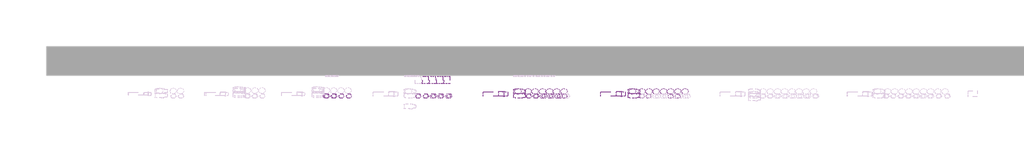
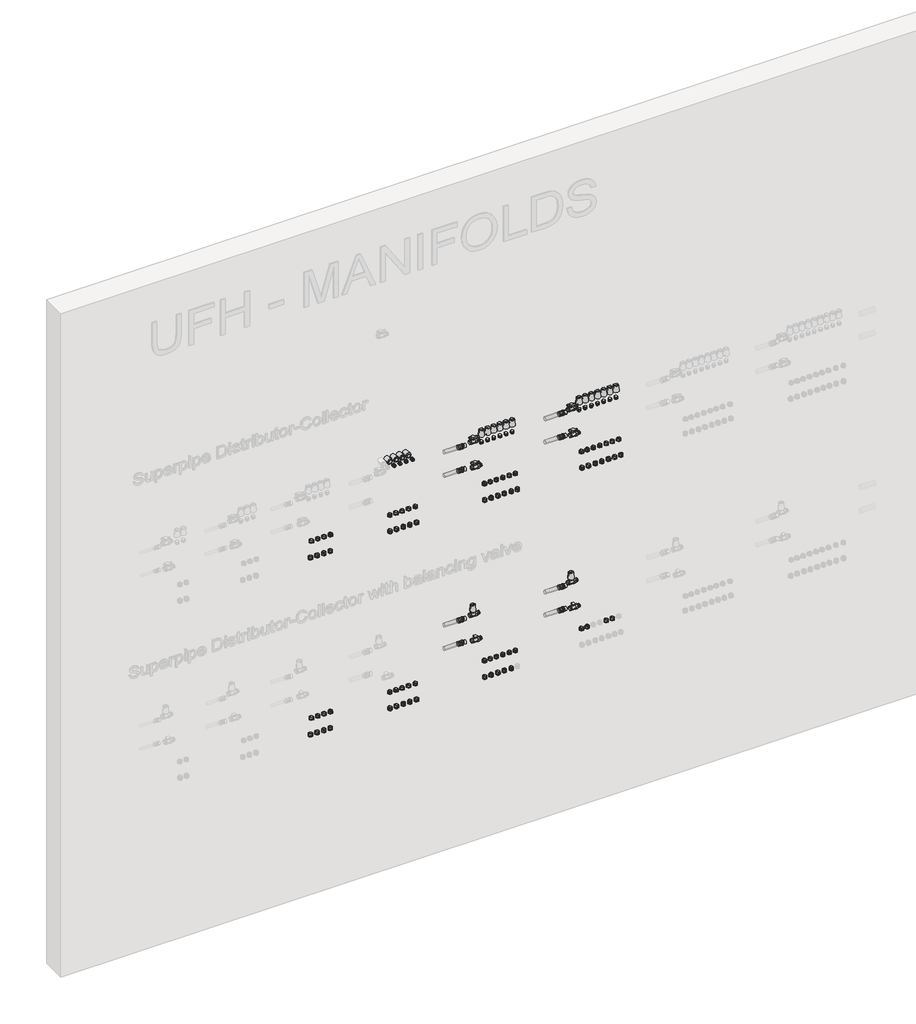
# One storey, part 2 of 26: 85 pipe fittings, 27 valves, 8 pipe segments.
"""IFC4 building model written with IfcOpenShell, lengths in millimetres."""

from ifc_helpers import new_model, si_unit, point, frame, frame_2d, origin, place, context, project, spatial, circle_curve, trimmed, segment, composite_curve, outline, extrude, transform, mapped, element, save
from components import pipe_fitting_a4cde8ab, pipe_fitting_d8af90f1, press_connection_with_male_thread_667abdb5, valve_0291d072, valve_f4025eb8, valve_fccc3399, valve_a3a22d59

model = new_model("IFC4")

# Units and contexts
model_context = context("Model", 3, world=origin())
ifc_project = project(units=[si_unit("LENGTHUNIT", "METRE", prefix="MILLI")], contexts=[model_context])

# Site, building, storey
site = spatial("IfcSite", under=ifc_project)
building = spatial("IfcBuilding", under=site)
storey = spatial("IfcBuildingStorey", under=building, Name="Superpipe UFH", Elevation=0.0)

# Pipe fittings
placement = place(None, origin())
pipe_fitting_shape = pipe_fitting_a4cde8ab(model_context)
element("IfcPipeFitting", 1, ObjectType="Compression Adapter 3/4\"FT : Superpipe Compression Adapter", at=placement, inside=storey, context=model_context, shape_type="MappedRepresentation", body=[
    mapped(pipe_fitting_shape, transform((2335.0760208, -1357.1498396, 3024.2503675), x_axis=(0.0, 0.0, -1.0), y_axis=(0.0, 1.0, 0.0), z_axis=(1.0, 0.0, 0.0))),
])
element("IfcPipeFitting", 2, ObjectType="Compression Adapter 3/4\"FT : Superpipe Compression Adapter", at=placement, inside=storey, context=model_context, shape_type="MappedRepresentation", body=[
    mapped(pipe_fitting_shape, transform((2387.690436, -1357.1498396, 3024.2503675), x_axis=(0.0, 0.0, -1.0), y_axis=(0.0, 1.0, 0.0), z_axis=(1.0, 0.0, 0.0))),
])
element("IfcPipeFitting", 3, ObjectType="Compression Adapter 3/4\"FT : Superpipe Compression Adapter", at=placement, inside=storey, context=model_context, shape_type="MappedRepresentation", body=[
    mapped(pipe_fitting_shape, transform((2442.690436, -1357.1498396, 3024.2503675), x_axis=(0.0, 0.0, -1.0), y_axis=(0.0, 1.0, 0.0), z_axis=(1.0, 0.0, 0.0))),
])
element("IfcPipeFitting", 4, ObjectType="Compression Adapter 3/4\"FT : Superpipe Compression Adapter", at=placement, inside=storey, context=model_context, shape_type="MappedRepresentation", body=[
    mapped(pipe_fitting_shape, transform((2495.190436, -1357.1498396, 3024.2503675), x_axis=(0.0, 0.0, -1.0), y_axis=(0.0, 1.0, 0.0), z_axis=(1.0, 0.0, 0.0))),
])
element("IfcPipeFitting", 5, ObjectType="Compression Adapter 3/4\"FT : Superpipe Compression Adapter", at=placement, inside=storey, context=model_context, shape_type="MappedRepresentation", body=[
    mapped(pipe_fitting_shape, transform((2980.0760208, -1357.1498396, 3024.2503675), x_axis=(0.0, 0.0, -1.0), y_axis=(0.0, 1.0, 0.0), z_axis=(1.0, 0.0, 0.0))),
])
element("IfcPipeFitting", 6, ObjectType="Compression Adapter 3/4\"FT : Superpipe Compression Adapter", at=placement, inside=storey, context=model_context, shape_type="MappedRepresentation", body=[
    mapped(pipe_fitting_shape, transform((3032.690436, -1357.1498396, 3024.2503675), x_axis=(0.0, 0.0, -1.0), y_axis=(0.0, 1.0, 0.0), z_axis=(1.0, 0.0, 0.0))),
])
element("IfcPipeFitting", 7, ObjectType="Compression Adapter 3/4\"FT : Superpipe Compression Adapter", at=placement, inside=storey, context=model_context, shape_type="MappedRepresentation", body=[
    mapped(pipe_fitting_shape, transform((3087.690436, -1357.1498396, 3024.2503675), x_axis=(0.0, 0.0, -1.0), y_axis=(0.0, 1.0, 0.0), z_axis=(1.0, 0.0, 0.0))),
])
element("IfcPipeFitting", 8, ObjectType="Compression Adapter 3/4\"FT : Superpipe Compression Adapter", at=placement, inside=storey, context=model_context, shape_type="MappedRepresentation", body=[
    mapped(pipe_fitting_shape, transform((3140.190436, -1357.1498396, 3024.2503675), x_axis=(0.0, 0.0, -1.0), y_axis=(0.0, 1.0, 0.0), z_axis=(1.0, 0.0, 0.0))),
])
element("IfcPipeFitting", 9, ObjectType="Compression Adapter 3/4\"FT : Superpipe Compression Adapter", at=placement, inside=storey, context=model_context, shape_type="MappedRepresentation", body=[
    mapped(pipe_fitting_shape, transform((3195.190436, -1357.1498396, 3024.2503675), x_axis=(0.0, 0.0, -1.0), y_axis=(0.0, 1.0, 0.0), z_axis=(1.0, 0.0, 0.0))),
])
element("IfcPipeFitting", 10, ObjectType="Compression Adapter 3/4\"FT : Superpipe Compression Adapter", at=placement, inside=storey, context=model_context, shape_type="MappedRepresentation", body=[
    mapped(pipe_fitting_shape, transform((3749.3069129, -1357.1498396, 3023.4111955), x_axis=(0.0, 0.0, -1.0), y_axis=(0.0, 1.0, 0.0), z_axis=(1.0, 0.0, 0.0))),
])
element("IfcPipeFitting", 11, ObjectType="Compression Adapter 3/4\"FT : Superpipe Compression Adapter", at=placement, inside=storey, context=model_context, shape_type="MappedRepresentation", body=[
    mapped(pipe_fitting_shape, transform((3801.9213282, -1357.1498396, 3023.4111955), x_axis=(0.0, 0.0, -1.0), y_axis=(0.0, 1.0, 0.0), z_axis=(1.0, 0.0, 0.0))),
])
element("IfcPipeFitting", 12, ObjectType="Compression Adapter 3/4\"FT : Superpipe Compression Adapter", at=placement, inside=storey, context=model_context, shape_type="MappedRepresentation", body=[
    mapped(pipe_fitting_shape, transform((3856.9213282, -1357.1498396, 3023.4111955), x_axis=(0.0, 0.0, -1.0), y_axis=(0.0, 1.0, 0.0), z_axis=(1.0, 0.0, 0.0))),
])
element("IfcPipeFitting", 13, ObjectType="Compression Adapter 3/4\"FT : Superpipe Compression Adapter", at=placement, inside=storey, context=model_context, shape_type="MappedRepresentation", body=[
    mapped(pipe_fitting_shape, transform((3909.4213282, -1357.1498396, 3023.4111955), x_axis=(0.0, 0.0, -1.0), y_axis=(0.0, 1.0, 0.0), z_axis=(1.0, 0.0, 0.0))),
])
element("IfcPipeFitting", 14, ObjectType="Compression Adapter 3/4\"FT : Superpipe Compression Adapter", at=placement, inside=storey, context=model_context, shape_type="MappedRepresentation", body=[
    mapped(pipe_fitting_shape, transform((3964.4213282, -1357.1498396, 3023.4111955), x_axis=(0.0, 0.0, -1.0), y_axis=(0.0, 1.0, 0.0), z_axis=(1.0, 0.0, 0.0))),
])
element("IfcPipeFitting", 15, ObjectType="Compression Adapter 3/4\"FT : Superpipe Compression Adapter", at=placement, inside=storey, context=model_context, shape_type="MappedRepresentation", body=[
    mapped(pipe_fitting_shape, transform((4014.4213282, -1357.1498396, 3023.4111955), x_axis=(0.0, 0.0, -1.0), y_axis=(0.0, 1.0, 0.0), z_axis=(1.0, 0.0, 0.0))),
])
element("IfcPipeFitting", 16, ObjectType="Compression Adapter 3/4\"FT : Superpipe Compression Adapter", at=placement, inside=storey, context=model_context, shape_type="MappedRepresentation", body=[
    mapped(pipe_fitting_shape, transform((4539.3069129, -1357.1498396, 3023.4111955), x_axis=(0.0, 0.0, -1.0), y_axis=(0.0, 1.0, 0.0), z_axis=(1.0, 0.0, 0.0))),
])
element("IfcPipeFitting", 17, ObjectType="Compression Adapter 3/4\"FT : Superpipe Compression Adapter", at=placement, inside=storey, context=model_context, shape_type="MappedRepresentation", body=[
    mapped(pipe_fitting_shape, transform((4591.9213282, -1357.1498396, 3023.4111955), x_axis=(0.0, 0.0, -1.0), y_axis=(0.0, 1.0, 0.0), z_axis=(1.0, 0.0, 0.0))),
])
element("IfcPipeFitting", 18, ObjectType="Compression Adapter 3/4\"FT : Superpipe Compression Adapter", at=placement, inside=storey, context=model_context, shape_type="MappedRepresentation", body=[
    mapped(pipe_fitting_shape, transform((4646.9213282, -1357.1498396, 3023.4111955), x_axis=(0.0, 0.0, -1.0), y_axis=(0.0, 1.0, 0.0), z_axis=(1.0, 0.0, 0.0))),
])
element("IfcPipeFitting", 19, ObjectType="Compression Adapter 3/4\"FT : Superpipe Compression Adapter", at=placement, inside=storey, context=model_context, shape_type="MappedRepresentation", body=[
    mapped(pipe_fitting_shape, transform((4699.4213282, -1357.1498396, 3023.4111955), x_axis=(0.0, 0.0, -1.0), y_axis=(0.0, 1.0, 0.0), z_axis=(1.0, 0.0, 0.0))),
])
element("IfcPipeFitting", 20, ObjectType="Compression Adapter 3/4\"FT : Superpipe Compression Adapter", at=placement, inside=storey, context=model_context, shape_type="MappedRepresentation", body=[
    mapped(pipe_fitting_shape, transform((4754.4213282, -1357.1498396, 3023.4111955), x_axis=(0.0, 0.0, -1.0), y_axis=(0.0, 1.0, 0.0), z_axis=(1.0, 0.0, 0.0))),
])
element("IfcPipeFitting", 21, ObjectType="Compression Adapter 3/4\"FT : Superpipe Compression Adapter", at=placement, inside=storey, context=model_context, shape_type="MappedRepresentation", body=[
    mapped(pipe_fitting_shape, transform((4804.4213282, -1357.1498396, 3023.4111955), x_axis=(0.0, 0.0, -1.0), y_axis=(0.0, 1.0, 0.0), z_axis=(1.0, 0.0, 0.0))),
])
element("IfcPipeFitting", 22, ObjectType="Compression Adapter 3/4\"FT : Superpipe Compression Adapter", at=placement, inside=storey, context=model_context, shape_type="MappedRepresentation", body=[
    mapped(pipe_fitting_shape, transform((4854.4213282, -1357.1498396, 3023.4111955), x_axis=(0.0, 0.0, -1.0), y_axis=(0.0, 1.0, 0.0), z_axis=(1.0, 0.0, 0.0))),
])
element("IfcPipeFitting", 23, ObjectType="Compression Adapter 3/4\"FT : Superpipe Compression Adapter", at=placement, inside=storey, context=model_context, shape_type="MappedRepresentation", body=[
    mapped(pipe_fitting_shape, transform((2335.0760208, -1357.1498396, 1504.2503675), x_axis=(0.0, 0.0, -1.0), y_axis=(0.0, 1.0, 0.0), z_axis=(1.0, 0.0, 0.0))),
])
element("IfcPipeFitting", 24, ObjectType="Compression Adapter 3/4\"FT : Superpipe Compression Adapter", at=placement, inside=storey, context=model_context, shape_type="MappedRepresentation", body=[
    mapped(pipe_fitting_shape, transform((2387.690436, -1357.1498396, 1504.2503675), x_axis=(0.0, 0.0, -1.0), y_axis=(0.0, 1.0, 0.0), z_axis=(1.0, 0.0, 0.0))),
])
element("IfcPipeFitting", 25, ObjectType="Compression Adapter 3/4\"FT : Superpipe Compression Adapter", at=placement, inside=storey, context=model_context, shape_type="MappedRepresentation", body=[
    mapped(pipe_fitting_shape, transform((2442.690436, -1357.1498396, 1504.2503675), x_axis=(0.0, 0.0, -1.0), y_axis=(0.0, 1.0, 0.0), z_axis=(1.0, 0.0, 0.0))),
])
element("IfcPipeFitting", 26, ObjectType="Compression Adapter 3/4\"FT : Superpipe Compression Adapter", at=placement, inside=storey, context=model_context, shape_type="MappedRepresentation", body=[
    mapped(pipe_fitting_shape, transform((2495.190436, -1357.1498396, 1504.2503675), x_axis=(0.0, 0.0, -1.0), y_axis=(0.0, 1.0, 0.0), z_axis=(1.0, 0.0, 0.0))),
])
element("IfcPipeFitting", 27, ObjectType="Compression Adapter 3/4\"FT : Superpipe Compression Adapter", at=placement, inside=storey, context=model_context, shape_type="MappedRepresentation", body=[
    mapped(pipe_fitting_shape, transform((2980.0760208, -1357.1498396, 1504.2503675), x_axis=(0.0, 0.0, -1.0), y_axis=(0.0, 1.0, 0.0), z_axis=(1.0, 0.0, 0.0))),
])
element("IfcPipeFitting", 28, ObjectType="Compression Adapter 3/4\"FT : Superpipe Compression Adapter", at=placement, inside=storey, context=model_context, shape_type="MappedRepresentation", body=[
    mapped(pipe_fitting_shape, transform((3032.690436, -1357.1498396, 1504.2503675), x_axis=(0.0, 0.0, -1.0), y_axis=(0.0, 1.0, 0.0), z_axis=(1.0, 0.0, 0.0))),
])
element("IfcPipeFitting", 29, ObjectType="Compression Adapter 3/4\"FT : Superpipe Compression Adapter", at=placement, inside=storey, context=model_context, shape_type="MappedRepresentation", body=[
    mapped(pipe_fitting_shape, transform((3087.690436, -1357.1498396, 1504.2503675), x_axis=(0.0, 0.0, -1.0), y_axis=(0.0, 1.0, 0.0), z_axis=(1.0, 0.0, 0.0))),
])
element("IfcPipeFitting", 30, ObjectType="Compression Adapter 3/4\"FT : Superpipe Compression Adapter", at=placement, inside=storey, context=model_context, shape_type="MappedRepresentation", body=[
    mapped(pipe_fitting_shape, transform((3140.190436, -1357.1498396, 1504.2503675), x_axis=(0.0, 0.0, -1.0), y_axis=(0.0, 1.0, 0.0), z_axis=(1.0, 0.0, 0.0))),
])
element("IfcPipeFitting", 31, ObjectType="Compression Adapter 3/4\"FT : Superpipe Compression Adapter", at=placement, inside=storey, context=model_context, shape_type="MappedRepresentation", body=[
    mapped(pipe_fitting_shape, transform((3195.190436, -1357.1498396, 1504.2503675), x_axis=(0.0, 0.0, -1.0), y_axis=(0.0, 1.0, 0.0), z_axis=(1.0, 0.0, 0.0))),
])
element("IfcPipeFitting", 32, ObjectType="Compression Adapter 3/4\"FT : Superpipe Compression Adapter", at=placement, inside=storey, context=model_context, shape_type="MappedRepresentation", body=[
    mapped(pipe_fitting_shape, transform((3749.3069129, -1357.1498396, 1503.4111955), x_axis=(0.0, 0.0, -1.0), y_axis=(0.0, 1.0, 0.0), z_axis=(1.0, 0.0, 0.0))),
])
element("IfcPipeFitting", 33, ObjectType="Compression Adapter 3/4\"FT : Superpipe Compression Adapter", at=placement, inside=storey, context=model_context, shape_type="MappedRepresentation", body=[
    mapped(pipe_fitting_shape, transform((3801.9213282, -1357.1498396, 1503.4111955), x_axis=(0.0, 0.0, -1.0), y_axis=(0.0, 1.0, 0.0), z_axis=(1.0, 0.0, 0.0))),
])
element("IfcPipeFitting", 34, ObjectType="Compression Adapter 3/4\"FT : Superpipe Compression Adapter", at=placement, inside=storey, context=model_context, shape_type="MappedRepresentation", body=[
    mapped(pipe_fitting_shape, transform((3856.9213282, -1357.1498396, 1503.4111955), x_axis=(0.0, 0.0, -1.0), y_axis=(0.0, 1.0, 0.0), z_axis=(1.0, 0.0, 0.0))),
])
element("IfcPipeFitting", 35, ObjectType="Compression Adapter 3/4\"FT : Superpipe Compression Adapter", at=placement, inside=storey, context=model_context, shape_type="MappedRepresentation", body=[
    mapped(pipe_fitting_shape, transform((3909.4213282, -1357.1498396, 1503.4111955), x_axis=(0.0, 0.0, -1.0), y_axis=(0.0, 1.0, 0.0), z_axis=(1.0, 0.0, 0.0))),
])
element("IfcPipeFitting", 36, ObjectType="Compression Adapter 3/4\"FT : Superpipe Compression Adapter", at=placement, inside=storey, context=model_context, shape_type="MappedRepresentation", body=[
    mapped(pipe_fitting_shape, transform((3964.4213282, -1357.1498396, 1503.4111955), x_axis=(0.0, 0.0, -1.0), y_axis=(0.0, 1.0, 0.0), z_axis=(1.0, 0.0, 0.0))),
])
pipe_fitting_2_shape = pipe_fitting_d8af90f1(model_context)
element("IfcPipeFitting", 37, ObjectType="Compression Adapter Euro : Superpipe Compression Adapter Euro", at=placement, inside=storey, context=model_context, shape_type="MappedRepresentation", body=[
    mapped(pipe_fitting_2_shape, transform((2342.7857584, -1357.1498396, 3162.7554532), x_axis=(0.0, 0.0, -1.0000000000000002), y_axis=(0.0, 1.0000000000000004, 0.0), z_axis=(1.0000000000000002, 0.0, 0.0))),
])
element("IfcPipeFitting", 38, ObjectType="Compression Adapter Euro : Superpipe Compression Adapter Euro", at=placement, inside=storey, context=model_context, shape_type="MappedRepresentation", body=[
    mapped(pipe_fitting_2_shape, transform((2394.0357584, -1357.1498396, 3162.7554532), x_axis=(0.0, 0.0, -1.0000000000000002), y_axis=(0.0, 1.0000000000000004, 0.0), z_axis=(1.0000000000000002, 0.0, 0.0))),
])
element("IfcPipeFitting", 39, ObjectType="Compression Adapter Euro : Superpipe Compression Adapter Euro", at=placement, inside=storey, context=model_context, shape_type="MappedRepresentation", body=[
    mapped(pipe_fitting_2_shape, transform((2444.0357584, -1357.1498396, 3162.7554532), x_axis=(0.0, 0.0, -1.0000000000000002), y_axis=(0.0, 1.0000000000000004, 0.0), z_axis=(1.0000000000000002, 0.0, 0.0))),
])
element("IfcPipeFitting", 40, ObjectType="Compression Adapter Euro : Superpipe Compression Adapter Euro", at=placement, inside=storey, context=model_context, shape_type="MappedRepresentation", body=[
    mapped(pipe_fitting_2_shape, transform((2496.2884138, -1357.1498396, 3162.7554532), x_axis=(0.0, 0.0, -1.0000000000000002), y_axis=(0.0, 1.0000000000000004, 0.0), z_axis=(1.0000000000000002, 0.0, 0.0))),
])
element("IfcPipeFitting", 41, ObjectType="Compression Adapter Euro : Superpipe Compression Adapter Euro", at=placement, inside=storey, context=model_context, shape_type="MappedRepresentation", body=[
    mapped(pipe_fitting_2_shape, transform((3186.0325611, -1357.1498396, 3162.7554532), x_axis=(0.0, 0.0, -1.0000000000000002), y_axis=(0.0, 1.0000000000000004, 0.0), z_axis=(1.0000000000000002, 0.0, 0.0))),
])
element("IfcPipeFitting", 42, ObjectType="Compression Adapter Euro : Superpipe Compression Adapter Euro", at=placement, inside=storey, context=model_context, shape_type="MappedRepresentation", body=[
    mapped(pipe_fitting_2_shape, transform((3997.2825611, -1357.1498396, 3162.7554532), x_axis=(0.0, 0.0, -1.0000000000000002), y_axis=(0.0, 1.0000000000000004, 0.0), z_axis=(1.0000000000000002, 0.0, 0.0))),
])
element("IfcPipeFitting", 43, ObjectType="Compression Adapter Euro : Superpipe Compression Adapter Euro", at=placement, inside=storey, context=model_context, shape_type="MappedRepresentation", body=[
    mapped(pipe_fitting_2_shape, transform((2977.7857584, -1357.1498396, 3162.7554532), x_axis=(0.0, 0.0, -1.0000000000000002), y_axis=(0.0, 1.0000000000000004, 0.0), z_axis=(1.0000000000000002, 0.0, 0.0))),
])
element("IfcPipeFitting", 44, ObjectType="Compression Adapter Euro : Superpipe Compression Adapter Euro", at=placement, inside=storey, context=model_context, shape_type="MappedRepresentation", body=[
    mapped(pipe_fitting_2_shape, transform((3029.0357584, -1357.1498396, 3162.7554532), x_axis=(0.0, 0.0, -1.0000000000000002), y_axis=(0.0, 1.0000000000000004, 0.0), z_axis=(1.0000000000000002, 0.0, 0.0))),
])
element("IfcPipeFitting", 45, ObjectType="Compression Adapter Euro : Superpipe Compression Adapter Euro", at=placement, inside=storey, context=model_context, shape_type="MappedRepresentation", body=[
    mapped(pipe_fitting_2_shape, transform((3079.0357584, -1357.1498396, 3162.7554532), x_axis=(0.0, 0.0, -1.0000000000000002), y_axis=(0.0, 1.0000000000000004, 0.0), z_axis=(1.0000000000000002, 0.0, 0.0))),
])
element("IfcPipeFitting", 46, ObjectType="Compression Adapter Euro : Superpipe Compression Adapter Euro", at=placement, inside=storey, context=model_context, shape_type="MappedRepresentation", body=[
    mapped(pipe_fitting_2_shape, transform((3131.2884138, -1357.1498396, 3162.7554532), x_axis=(0.0, 0.0, -1.0000000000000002), y_axis=(0.0, 1.0000000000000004, 0.0), z_axis=(1.0000000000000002, 0.0, 0.0))),
])
element("IfcPipeFitting", 47, ObjectType="Compression Adapter Euro : Superpipe Compression Adapter Euro", at=placement, inside=storey, context=model_context, shape_type="MappedRepresentation", body=[
    mapped(pipe_fitting_2_shape, transform((3948.5325611, -1357.1498396, 3162.7554532), x_axis=(0.0, 0.0, -1.0000000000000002), y_axis=(0.0, 1.0000000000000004, 0.0), z_axis=(1.0000000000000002, 0.0, 0.0))),
])
element("IfcPipeFitting", 48, ObjectType="Compression Adapter Euro : Superpipe Compression Adapter Euro", at=placement, inside=storey, context=model_context, shape_type="MappedRepresentation", body=[
    mapped(pipe_fitting_2_shape, transform((3747.7857584, -1357.1498396, 3162.7554532), x_axis=(0.0, 0.0, -1.0000000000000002), y_axis=(0.0, 1.0000000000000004, 0.0), z_axis=(1.0000000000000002, 0.0, 0.0))),
])
element("IfcPipeFitting", 49, ObjectType="Compression Adapter Euro : Superpipe Compression Adapter Euro", at=placement, inside=storey, context=model_context, shape_type="MappedRepresentation", body=[
    mapped(pipe_fitting_2_shape, transform((3794.0357584, -1357.1498396, 3162.7554532), x_axis=(0.0, 0.0, -1.0000000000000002), y_axis=(0.0, 1.0000000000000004, 0.0), z_axis=(1.0000000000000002, 0.0, 0.0))),
])
element("IfcPipeFitting", 50, ObjectType="Compression Adapter Euro : Superpipe Compression Adapter Euro", at=placement, inside=storey, context=model_context, shape_type="MappedRepresentation", body=[
    mapped(pipe_fitting_2_shape, transform((3844.0357584, -1357.1498396, 3162.7554532), x_axis=(0.0, 0.0, -1.0000000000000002), y_axis=(0.0, 1.0000000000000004, 0.0), z_axis=(1.0000000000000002, 0.0, 0.0))),
])
element("IfcPipeFitting", 51, ObjectType="Compression Adapter Euro : Superpipe Compression Adapter Euro", at=placement, inside=storey, context=model_context, shape_type="MappedRepresentation", body=[
    mapped(pipe_fitting_2_shape, transform((3896.2884138, -1357.1498396, 3162.7554532), x_axis=(0.0, 0.0, -1.0000000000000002), y_axis=(0.0, 1.0000000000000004, 0.0), z_axis=(1.0000000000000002, 0.0, 0.0))),
])
element("IfcPipeFitting", 52, ObjectType="Compression Adapter Euro : Superpipe Compression Adapter Euro", at=placement, inside=storey, context=model_context, shape_type="MappedRepresentation", body=[
    mapped(pipe_fitting_2_shape, transform((4784.7825611, -1357.1498396, 3162.7554532), x_axis=(0.0, 0.0, -1.0000000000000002), y_axis=(0.0, 1.0000000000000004, 0.0), z_axis=(1.0000000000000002, 0.0, 0.0))),
])
element("IfcPipeFitting", 53, ObjectType="Compression Adapter Euro : Superpipe Compression Adapter Euro", at=placement, inside=storey, context=model_context, shape_type="MappedRepresentation", body=[
    mapped(pipe_fitting_2_shape, transform((4736.0325611, -1357.1498396, 3162.7554532), x_axis=(0.0, 0.0, -1.0000000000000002), y_axis=(0.0, 1.0000000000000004, 0.0), z_axis=(1.0000000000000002, 0.0, 0.0))),
])
element("IfcPipeFitting", 54, ObjectType="Compression Adapter Euro : Superpipe Compression Adapter Euro", at=placement, inside=storey, context=model_context, shape_type="MappedRepresentation", body=[
    mapped(pipe_fitting_2_shape, transform((4535.2857584, -1357.1498396, 3162.7554532), x_axis=(0.0, 0.0, -1.0000000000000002), y_axis=(0.0, 1.0000000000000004, 0.0), z_axis=(1.0000000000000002, 0.0, 0.0))),
])
element("IfcPipeFitting", 55, ObjectType="Compression Adapter Euro : Superpipe Compression Adapter Euro", at=placement, inside=storey, context=model_context, shape_type="MappedRepresentation", body=[
    mapped(pipe_fitting_2_shape, transform((4581.5357584, -1357.1498396, 3162.7554532), x_axis=(0.0, 0.0, -1.0000000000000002), y_axis=(0.0, 1.0000000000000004, 0.0), z_axis=(1.0000000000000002, 0.0, 0.0))),
])
element("IfcPipeFitting", 56, ObjectType="Compression Adapter Euro : Superpipe Compression Adapter Euro", at=placement, inside=storey, context=model_context, shape_type="MappedRepresentation", body=[
    mapped(pipe_fitting_2_shape, transform((4631.5357584, -1357.1498396, 3162.7554532), x_axis=(0.0, 0.0, -1.0000000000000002), y_axis=(0.0, 1.0000000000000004, 0.0), z_axis=(1.0000000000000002, 0.0, 0.0))),
])
element("IfcPipeFitting", 57, ObjectType="Compression Adapter Euro : Superpipe Compression Adapter Euro", at=placement, inside=storey, context=model_context, shape_type="MappedRepresentation", body=[
    mapped(pipe_fitting_2_shape, transform((4683.7884138, -1357.1498396, 3162.7554532), x_axis=(0.0, 0.0, -1.0000000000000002), y_axis=(0.0, 1.0000000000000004, 0.0), z_axis=(1.0000000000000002, 0.0, 0.0))),
])
element("IfcPipeFitting", 58, ObjectType="Compression Adapter Euro : Superpipe Compression Adapter Euro", at=placement, inside=storey, context=model_context, shape_type="MappedRepresentation", body=[
    mapped(pipe_fitting_2_shape, transform((4837.2825611, -1357.1498396, 3162.7554532), x_axis=(0.0, 0.0, -1.0000000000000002), y_axis=(0.0, 1.0000000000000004, 0.0), z_axis=(1.0000000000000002, 0.0, 0.0))),
])
element("IfcPipeFitting", 59, ObjectType="Compression Adapter Euro : Superpipe Compression Adapter Euro", at=placement, inside=storey, context=model_context, shape_type="MappedRepresentation", body=[
    mapped(pipe_fitting_2_shape, transform((2342.7857584, -1357.1498396, 1642.7554532), x_axis=(0.0, 0.0, -1.0000000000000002), y_axis=(0.0, 1.0000000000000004, 0.0), z_axis=(1.0000000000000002, 0.0, 0.0))),
])
element("IfcPipeFitting", 60, ObjectType="Compression Adapter Euro : Superpipe Compression Adapter Euro", at=placement, inside=storey, context=model_context, shape_type="MappedRepresentation", body=[
    mapped(pipe_fitting_2_shape, transform((2394.0357584, -1357.1498396, 1642.7554532), x_axis=(0.0, 0.0, -1.0000000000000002), y_axis=(0.0, 1.0000000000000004, 0.0), z_axis=(1.0000000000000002, 0.0, 0.0))),
])
element("IfcPipeFitting", 61, ObjectType="Compression Adapter Euro : Superpipe Compression Adapter Euro", at=placement, inside=storey, context=model_context, shape_type="MappedRepresentation", body=[
    mapped(pipe_fitting_2_shape, transform((2444.0357584, -1357.1498396, 1642.7554532), x_axis=(0.0, 0.0, -1.0000000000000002), y_axis=(0.0, 1.0000000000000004, 0.0), z_axis=(1.0000000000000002, 0.0, 0.0))),
])
element("IfcPipeFitting", 62, ObjectType="Compression Adapter Euro : Superpipe Compression Adapter Euro", at=placement, inside=storey, context=model_context, shape_type="MappedRepresentation", body=[
    mapped(pipe_fitting_2_shape, transform((2496.2884138, -1357.1498396, 1642.7554532), x_axis=(0.0, 0.0, -1.0000000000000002), y_axis=(0.0, 1.0000000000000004, 0.0), z_axis=(1.0000000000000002, 0.0, 0.0))),
])
element("IfcPipeFitting", 63, ObjectType="Compression Adapter Euro : Superpipe Compression Adapter Euro", at=placement, inside=storey, context=model_context, shape_type="MappedRepresentation", body=[
    mapped(pipe_fitting_2_shape, transform((3186.0325611, -1357.1498396, 1642.7554532), x_axis=(0.0, 0.0, -1.0000000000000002), y_axis=(0.0, 1.0000000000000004, 0.0), z_axis=(1.0000000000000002, 0.0, 0.0))),
])
element("IfcPipeFitting", 64, ObjectType="Compression Adapter Euro : Superpipe Compression Adapter Euro", at=placement, inside=storey, context=model_context, shape_type="MappedRepresentation", body=[
    mapped(pipe_fitting_2_shape, transform((3997.2825611, -1357.1498396, 1642.7554532), x_axis=(0.0, 0.0, -1.0000000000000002), y_axis=(0.0, 1.0000000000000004, 0.0), z_axis=(1.0000000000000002, 0.0, 0.0))),
])
element("IfcPipeFitting", 65, ObjectType="Compression Adapter Euro : Superpipe Compression Adapter Euro", at=placement, inside=storey, context=model_context, shape_type="MappedRepresentation", body=[
    mapped(pipe_fitting_2_shape, transform((2977.7857584, -1357.1498396, 1642.7554532), x_axis=(0.0, 0.0, -1.0000000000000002), y_axis=(0.0, 1.0000000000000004, 0.0), z_axis=(1.0000000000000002, 0.0, 0.0))),
])
element("IfcPipeFitting", 66, ObjectType="Compression Adapter Euro : Superpipe Compression Adapter Euro", at=placement, inside=storey, context=model_context, shape_type="MappedRepresentation", body=[
    mapped(pipe_fitting_2_shape, transform((3029.0357584, -1357.1498396, 1642.7554532), x_axis=(0.0, 0.0, -1.0000000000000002), y_axis=(0.0, 1.0000000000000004, 0.0), z_axis=(1.0000000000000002, 0.0, 0.0))),
])
element("IfcPipeFitting", 67, ObjectType="Compression Adapter Euro : Superpipe Compression Adapter Euro", at=placement, inside=storey, context=model_context, shape_type="MappedRepresentation", body=[
    mapped(pipe_fitting_2_shape, transform((3079.0357584, -1357.1498396, 1642.7554532), x_axis=(0.0, 0.0, -1.0000000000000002), y_axis=(0.0, 1.0000000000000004, 0.0), z_axis=(1.0000000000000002, 0.0, 0.0))),
])
element("IfcPipeFitting", 68, ObjectType="Compression Adapter Euro : Superpipe Compression Adapter Euro", at=placement, inside=storey, context=model_context, shape_type="MappedRepresentation", body=[
    mapped(pipe_fitting_2_shape, transform((3131.2884138, -1357.1498396, 1642.7554532), x_axis=(0.0, 0.0, -1.0000000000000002), y_axis=(0.0, 1.0000000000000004, 0.0), z_axis=(1.0000000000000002, 0.0, 0.0))),
])
element("IfcPipeFitting", 69, ObjectType="Compression Adapter Euro : Superpipe Compression Adapter Euro", at=placement, inside=storey, context=model_context, shape_type="MappedRepresentation", body=[
    mapped(pipe_fitting_2_shape, transform((3948.5325611, -1357.1498396, 1642.7554532), x_axis=(0.0, 0.0, -1.0000000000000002), y_axis=(0.0, 1.0000000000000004, 0.0), z_axis=(1.0000000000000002, 0.0, 0.0))),
])
element("IfcPipeFitting", 70, ObjectType="Compression Adapter Euro : Superpipe Compression Adapter Euro", at=placement, inside=storey, context=model_context, shape_type="MappedRepresentation", body=[
    mapped(pipe_fitting_2_shape, transform((3747.7857584, -1357.1498396, 1642.7554532), x_axis=(0.0, 0.0, -1.0000000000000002), y_axis=(0.0, 1.0000000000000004, 0.0), z_axis=(1.0000000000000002, 0.0, 0.0))),
])
element("IfcPipeFitting", 71, ObjectType="Compression Adapter Euro : Superpipe Compression Adapter Euro", at=placement, inside=storey, context=model_context, shape_type="MappedRepresentation", body=[
    mapped(pipe_fitting_2_shape, transform((3794.0357584, -1357.1498396, 1642.7554532), x_axis=(0.0, 0.0, -1.0000000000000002), y_axis=(0.0, 1.0000000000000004, 0.0), z_axis=(1.0000000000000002, 0.0, 0.0))),
])
element("IfcPipeFitting", 72, ObjectType="Compression Adapter Euro : Superpipe Compression Adapter Euro", at=placement, inside=storey, context=model_context, shape_type="MappedRepresentation", body=[
    mapped(pipe_fitting_2_shape, transform((3844.0357584, -1357.1498396, 1642.7554532), x_axis=(0.0, 0.0, -1.0000000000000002), y_axis=(0.0, 1.0000000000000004, 0.0), z_axis=(1.0000000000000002, 0.0, 0.0))),
])
element("IfcPipeFitting", 73, ObjectType="Compression Adapter Euro : Superpipe Compression Adapter Euro", at=placement, inside=storey, context=model_context, shape_type="MappedRepresentation", body=[
    mapped(pipe_fitting_2_shape, transform((3896.2884138, -1357.1498396, 1642.7554532), x_axis=(0.0, 0.0, -1.0000000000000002), y_axis=(0.0, 1.0000000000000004, 0.0), z_axis=(1.0000000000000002, 0.0, 0.0))),
])
element("IfcPipeFitting", 74, ObjectType="Compression Adapter Euro : Superpipe Compression Adapter Euro", at=placement, inside=storey, context=model_context, shape_type="MappedRepresentation", body=[
    mapped(pipe_fitting_2_shape, transform((4784.7825611, -1357.1498396, 1642.7554532), x_axis=(0.0, 0.0, -1.0000000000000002), y_axis=(0.0, 1.0000000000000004, 0.0), z_axis=(1.0000000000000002, 0.0, 0.0))),
])
element("IfcPipeFitting", 75, ObjectType="Compression Adapter Euro : Superpipe Compression Adapter Euro", at=placement, inside=storey, context=model_context, shape_type="MappedRepresentation", body=[
    mapped(pipe_fitting_2_shape, transform((4736.0325611, -1357.1498396, 1642.7554532), x_axis=(0.0, 0.0, -1.0000000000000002), y_axis=(0.0, 1.0000000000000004, 0.0), z_axis=(1.0000000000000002, 0.0, 0.0))),
])
element("IfcPipeFitting", 76, ObjectType="Compression Adapter Euro : Superpipe Compression Adapter Euro", at=placement, inside=storey, context=model_context, shape_type="MappedRepresentation", body=[
    mapped(pipe_fitting_2_shape, transform((4535.2857584, -1357.1498396, 1642.7554532), x_axis=(0.0, 0.0, -1.0000000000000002), y_axis=(0.0, 1.0000000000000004, 0.0), z_axis=(1.0000000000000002, 0.0, 0.0))),
])
element("IfcPipeFitting", 77, ObjectType="Compression Adapter Euro : Superpipe Compression Adapter Euro", at=placement, inside=storey, context=model_context, shape_type="MappedRepresentation", body=[
    mapped(pipe_fitting_2_shape, transform((4581.5357584, -1357.1498396, 1642.7554532), x_axis=(0.0, 0.0, -1.0000000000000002), y_axis=(0.0, 1.0000000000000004, 0.0), z_axis=(1.0000000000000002, 0.0, 0.0))),
])
press_connection_with_male_thread_shape = press_connection_with_male_thread_667abdb5(model_context)
element("IfcPipeFitting", 78, ObjectType="Press Connection with Male Thread : Superpipe Press Connection - 32x1\" MT", at=placement, inside=storey, context=model_context, shape_type="MappedRepresentation", body=[
    mapped(press_connection_with_male_thread_shape, transform((3538.0984916, -1341.3459802, 1837.7531393), x_axis=(1.0, 0.0, 0.0), y_axis=(0.0, 1.0, 0.0), z_axis=(0.0, 0.0, 1.0))),
])
element("IfcPipeFitting", 79, ObjectType="Press Connection with Male Thread : Superpipe Press Connection - 32x1\" MT", at=placement, inside=storey, context=model_context, shape_type="MappedRepresentation", body=[
    mapped(press_connection_with_male_thread_shape, transform((3538.0984916, -1341.3459802, 2038.4293979), x_axis=(1.0, 0.0, 0.0), y_axis=(0.0, 1.0, 0.0), z_axis=(0.0, 0.0, 1.0))),
])
element("IfcPipeFitting", 80, ObjectType="Press Connection with Male Thread : Superpipe Press Connection - 32x1\" MT", at=placement, inside=storey, context=model_context, shape_type="MappedRepresentation", body=[
    mapped(press_connection_with_male_thread_shape, transform((3538.0984916, -1341.3459802, 3323.5169288), x_axis=(1.0, 0.0, 0.0), y_axis=(0.0, 1.0, 0.0), z_axis=(0.0, 0.0, 1.0))),
])
element("IfcPipeFitting", 81, ObjectType="Press Connection with Male Thread : Superpipe Press Connection - 32x1\" MT", at=placement, inside=storey, context=model_context, shape_type="MappedRepresentation", body=[
    mapped(press_connection_with_male_thread_shape, transform((3538.0984916, -1341.3459802, 3524.1931874), x_axis=(1.0, 0.0, 0.0), y_axis=(0.0, 1.0, 0.0), z_axis=(0.0, 0.0, 1.0))),
])
element("IfcPipeFitting", 82, ObjectType="Press Connection with Male Thread : Superpipe Press Connection - 32x1\" MT", at=placement, inside=storey, context=model_context, shape_type="MappedRepresentation", body=[
    mapped(press_connection_with_male_thread_shape, transform((4356.2557537, -1341.3459802, 3524.1931874), x_axis=(1.0, 0.0, 0.0), y_axis=(0.0, 1.0, 0.0), z_axis=(0.0, 0.0, 1.0))),
])
element("IfcPipeFitting", 83, ObjectType="Press Connection with Male Thread : Superpipe Press Connection - 32x1\" MT", at=placement, inside=storey, context=model_context, shape_type="MappedRepresentation", body=[
    mapped(press_connection_with_male_thread_shape, transform((4356.2557537, -1341.3459802, 3323.5169288), x_axis=(1.0, 0.0, 0.0), y_axis=(0.0, 1.0, 0.0), z_axis=(0.0, 0.0, 1.0))),
])
element("IfcPipeFitting", 84, ObjectType="Press Connection with Male Thread : Superpipe Press Connection - 32x1\" MT", at=placement, inside=storey, context=model_context, shape_type="MappedRepresentation", body=[
    mapped(press_connection_with_male_thread_shape, transform((4356.2557537, -1341.3459802, 2035.8768465), x_axis=(1.0, 0.0, 0.0), y_axis=(0.0, 1.0, 0.0), z_axis=(0.0, 0.0, 1.0))),
])
element("IfcPipeFitting", 85, ObjectType="Press Connection with Male Thread : Superpipe Press Connection - 32x1\" MT", at=placement, inside=storey, context=model_context, shape_type="MappedRepresentation", body=[
    mapped(press_connection_with_male_thread_shape, transform((4356.2557537, -1341.3459802, 1837.7531393), x_axis=(1.0, 0.0, 0.0), y_axis=(0.0, 1.0, 0.0), z_axis=(0.0, 0.0, 1.0))),
])

# Pipe segments
element("IfcPipeSegment", 86, ObjectType="Superpipe 2+ coil", at=placement, inside=storey, context=model_context, shape_type="SweptSolid", body=[
    extrude(outline(composite_curve([segment(trimmed(circle_curve(frame_2d((-1341.3459802, 1837.7531393)), 16.0), [point((-1325.3459802, 1837.7531393))], [point((-1341.3459802, 1821.7531393))], False, "CARTESIAN"), True, "CONTINUOUS"), segment(trimmed(circle_curve(frame_2d((-1341.3459802, 1837.7531393)), 16.0), [point((-1341.3459802, 1821.7531393))], [point((-1357.3459802, 1837.7531393))], False, "CARTESIAN"), True, "CONTINUOUS"), segment(trimmed(circle_curve(frame_2d((-1341.3459802, 1837.7531393)), 16.0), [point((-1357.3459802, 1837.7531393))], [point((-1341.3459802, 1853.7531393))], False, "CARTESIAN"), True, "CONTINUOUS"), segment(trimmed(circle_curve(frame_2d((-1341.3459802, 1837.7531393)), 16.0), [point((-1341.3459802, 1853.7531393))], [point((-1325.3459802, 1837.7531393))], False, "CARTESIAN"), True, "CONTINUOUS")], self_intersect=False)), frame((3429.8381629, 0.0, 0.0), z_axis=(1.0, 0.0, 0.0), x_axis=(0.0, 1.0, 0.0)), (0.0, 0.0, 1.0), 142.2603287),
])
element("IfcPipeSegment", 87, ObjectType="Superpipe 2+ coil", at=placement, inside=storey, context=model_context, shape_type="SweptSolid", body=[
    extrude(outline(composite_curve([segment(trimmed(circle_curve(frame_2d((-1341.3459802, 2038.4293979)), 16.0), [point((-1325.3459802, 2038.4293979))], [point((-1341.3459802, 2022.4293979))], False, "CARTESIAN"), True, "CONTINUOUS"), segment(trimmed(circle_curve(frame_2d((-1341.3459802, 2038.4293979)), 16.0), [point((-1341.3459802, 2022.4293979))], [point((-1357.3459802, 2038.4293979))], False, "CARTESIAN"), True, "CONTINUOUS"), segment(trimmed(circle_curve(frame_2d((-1341.3459802, 2038.4293979)), 16.0), [point((-1357.3459802, 2038.4293979))], [point((-1341.3459802, 2054.4293979))], False, "CARTESIAN"), True, "CONTINUOUS"), segment(trimmed(circle_curve(frame_2d((-1341.3459802, 2038.4293979)), 16.0), [point((-1341.3459802, 2054.4293979))], [point((-1325.3459802, 2038.4293979))], False, "CARTESIAN"), True, "CONTINUOUS")], self_intersect=False)), frame((3429.8381629, 0.0, 0.0), z_axis=(1.0, 0.0, 0.0), x_axis=(0.0, 1.0, 0.0)), (0.0, 0.0, 1.0), 142.2603287),
])
element("IfcPipeSegment", 88, ObjectType="Superpipe 2+ coil", at=placement, inside=storey, context=model_context, shape_type="SweptSolid", body=[
    extrude(outline(composite_curve([segment(trimmed(circle_curve(frame_2d((-1341.3459802, 3323.5169288)), 16.0), [point((-1325.3459802, 3323.5169288))], [point((-1341.3459802, 3307.5169288))], False, "CARTESIAN"), True, "CONTINUOUS"), segment(trimmed(circle_curve(frame_2d((-1341.3459802, 3323.5169288)), 16.0), [point((-1341.3459802, 3307.5169288))], [point((-1357.3459802, 3323.5169288))], False, "CARTESIAN"), True, "CONTINUOUS"), segment(trimmed(circle_curve(frame_2d((-1341.3459802, 3323.5169288)), 16.0), [point((-1357.3459802, 3323.5169288))], [point((-1341.3459802, 3339.5169288))], False, "CARTESIAN"), True, "CONTINUOUS"), segment(trimmed(circle_curve(frame_2d((-1341.3459802, 3323.5169288)), 16.0), [point((-1341.3459802, 3339.5169288))], [point((-1325.3459802, 3323.5169288))], False, "CARTESIAN"), True, "CONTINUOUS")], self_intersect=False)), frame((3429.8381629, 0.0, 0.0), z_axis=(1.0, 0.0, 0.0), x_axis=(0.0, 1.0, 0.0)), (0.0, 0.0, 1.0), 142.2603287),
])
element("IfcPipeSegment", 89, ObjectType="Superpipe 2+ coil", at=placement, inside=storey, context=model_context, shape_type="SweptSolid", body=[
    extrude(outline(composite_curve([segment(trimmed(circle_curve(frame_2d((-1341.3459802, 3524.1931874)), 16.0), [point((-1325.3459802, 3524.1931874))], [point((-1341.3459802, 3508.1931874))], False, "CARTESIAN"), True, "CONTINUOUS"), segment(trimmed(circle_curve(frame_2d((-1341.3459802, 3524.1931874)), 16.0), [point((-1341.3459802, 3508.1931874))], [point((-1357.3459802, 3524.1931874))], False, "CARTESIAN"), True, "CONTINUOUS"), segment(trimmed(circle_curve(frame_2d((-1341.3459802, 3524.1931874)), 16.0), [point((-1357.3459802, 3524.1931874))], [point((-1341.3459802, 3540.1931874))], False, "CARTESIAN"), True, "CONTINUOUS"), segment(trimmed(circle_curve(frame_2d((-1341.3459802, 3524.1931874)), 16.0), [point((-1341.3459802, 3540.1931874))], [point((-1325.3459802, 3524.1931874))], False, "CARTESIAN"), True, "CONTINUOUS")], self_intersect=False)), frame((3429.8381629, 0.0, 0.0), z_axis=(1.0, 0.0, 0.0), x_axis=(0.0, 1.0, 0.0)), (0.0, 0.0, 1.0), 142.2603287),
])
element("IfcPipeSegment", 90, ObjectType="Superpipe 2+ coil", at=placement, inside=storey, context=model_context, shape_type="SweptSolid", body=[
    extrude(outline(composite_curve([segment(trimmed(circle_curve(frame_2d((-1341.3459802, 3524.1931874)), 16.0), [point((-1325.3459802, 3524.1931874))], [point((-1341.3459802, 3508.1931874))], False, "CARTESIAN"), True, "CONTINUOUS"), segment(trimmed(circle_curve(frame_2d((-1341.3459802, 3524.1931874)), 16.0), [point((-1341.3459802, 3508.1931874))], [point((-1357.3459802, 3524.1931874))], False, "CARTESIAN"), True, "CONTINUOUS"), segment(trimmed(circle_curve(frame_2d((-1341.3459802, 3524.1931874)), 16.0), [point((-1357.3459802, 3524.1931874))], [point((-1341.3459802, 3540.1931874))], False, "CARTESIAN"), True, "CONTINUOUS"), segment(trimmed(circle_curve(frame_2d((-1341.3459802, 3524.1931874)), 16.0), [point((-1341.3459802, 3540.1931874))], [point((-1325.3459802, 3524.1931874))], False, "CARTESIAN"), True, "CONTINUOUS")], self_intersect=False)), frame((4247.995425, 0.0, 0.0), z_axis=(1.0, 0.0, 0.0), x_axis=(0.0, 1.0, 0.0)), (0.0, 0.0, 1.0), 142.2603287),
])
element("IfcPipeSegment", 91, ObjectType="Superpipe 2+ coil", at=placement, inside=storey, context=model_context, shape_type="SweptSolid", body=[
    extrude(outline(composite_curve([segment(trimmed(circle_curve(frame_2d((-1341.3459802, 3323.5169288)), 16.0), [point((-1325.3459802, 3323.5169288))], [point((-1341.3459802, 3307.5169288))], False, "CARTESIAN"), True, "CONTINUOUS"), segment(trimmed(circle_curve(frame_2d((-1341.3459802, 3323.5169288)), 16.0), [point((-1341.3459802, 3307.5169288))], [point((-1357.3459802, 3323.5169288))], False, "CARTESIAN"), True, "CONTINUOUS"), segment(trimmed(circle_curve(frame_2d((-1341.3459802, 3323.5169288)), 16.0), [point((-1357.3459802, 3323.5169288))], [point((-1341.3459802, 3339.5169288))], False, "CARTESIAN"), True, "CONTINUOUS"), segment(trimmed(circle_curve(frame_2d((-1341.3459802, 3323.5169288)), 16.0), [point((-1341.3459802, 3339.5169288))], [point((-1325.3459802, 3323.5169288))], False, "CARTESIAN"), True, "CONTINUOUS")], self_intersect=False)), frame((4247.995425, 0.0, 0.0), z_axis=(1.0, 0.0, 0.0), x_axis=(0.0, 1.0, 0.0)), (0.0, 0.0, 1.0), 142.2603287),
])
element("IfcPipeSegment", 92, ObjectType="Superpipe 2+ coil", at=placement, inside=storey, context=model_context, shape_type="SweptSolid", body=[
    extrude(outline(composite_curve([segment(trimmed(circle_curve(frame_2d((-1341.3459802, 2035.8768465)), 16.0), [point((-1325.3459802, 2035.8768465))], [point((-1341.3459802, 2019.8768465))], False, "CARTESIAN"), True, "CONTINUOUS"), segment(trimmed(circle_curve(frame_2d((-1341.3459802, 2035.8768465)), 16.0), [point((-1341.3459802, 2019.8768465))], [point((-1357.3459802, 2035.8768465))], False, "CARTESIAN"), True, "CONTINUOUS"), segment(trimmed(circle_curve(frame_2d((-1341.3459802, 2035.8768465)), 16.0), [point((-1357.3459802, 2035.8768465))], [point((-1341.3459802, 2051.8768465))], False, "CARTESIAN"), True, "CONTINUOUS"), segment(trimmed(circle_curve(frame_2d((-1341.3459802, 2035.8768465)), 16.0), [point((-1341.3459802, 2051.8768465))], [point((-1325.3459802, 2035.8768465))], False, "CARTESIAN"), True, "CONTINUOUS")], self_intersect=False)), frame((4247.995425, 0.0, 0.0), z_axis=(1.0, 0.0, 0.0), x_axis=(0.0, 1.0, 0.0)), (0.0, 0.0, 1.0), 142.2603287),
])
element("IfcPipeSegment", 93, ObjectType="Superpipe 2+ coil", at=placement, inside=storey, context=model_context, shape_type="SweptSolid", body=[
    extrude(outline(composite_curve([segment(trimmed(circle_curve(frame_2d((-1341.3459802, 1837.7531393)), 16.0), [point((-1325.3459802, 1837.7531393))], [point((-1341.3459802, 1821.7531393))], False, "CARTESIAN"), True, "CONTINUOUS"), segment(trimmed(circle_curve(frame_2d((-1341.3459802, 1837.7531393)), 16.0), [point((-1341.3459802, 1821.7531393))], [point((-1357.3459802, 1837.7531393))], False, "CARTESIAN"), True, "CONTINUOUS"), segment(trimmed(circle_curve(frame_2d((-1341.3459802, 1837.7531393)), 16.0), [point((-1357.3459802, 1837.7531393))], [point((-1341.3459802, 1853.7531393))], False, "CARTESIAN"), True, "CONTINUOUS"), segment(trimmed(circle_curve(frame_2d((-1341.3459802, 1837.7531393)), 16.0), [point((-1341.3459802, 1853.7531393))], [point((-1325.3459802, 1837.7531393))], False, "CARTESIAN"), True, "CONTINUOUS")], self_intersect=False)), frame((4247.995425, 0.0, 0.0), z_axis=(1.0, 0.0, 0.0), x_axis=(0.0, 1.0, 0.0)), (0.0, 0.0, 1.0), 142.2603287),
])

# Valves
valve_shape = valve_0291d072(model_context)
element("IfcValve", 94, ObjectType="Superpipe Actuator : Superpipe Actuator", at=placement, inside=storey, context=model_context, shape_type="MappedRepresentation", body=[
    mapped(valve_shape, transform((3178.8868788, -1277.3763047, 3543.0791945), x_axis=(1.0, 0.0, 0.0), y_axis=(0.0, 0.0, -1.0), z_axis=(0.0, 1.0, 0.0))),
])
element("IfcValve", 95, ObjectType="Superpipe Actuator : Superpipe Actuator", at=placement, inside=storey, context=model_context, shape_type="MappedRepresentation", body=[
    mapped(valve_shape, transform((3128.8868788, -1277.3763047, 3543.0791945), x_axis=(1.0, 0.0, 0.0), y_axis=(0.0, 0.0, -1.0), z_axis=(0.0, 1.0, 0.0))),
])
element("IfcValve", 96, ObjectType="Superpipe Actuator : Superpipe Actuator", at=placement, inside=storey, context=model_context, shape_type="MappedRepresentation", body=[
    mapped(valve_shape, transform((3078.8868788, -1277.3763047, 3543.0791945), x_axis=(1.0, 0.0, 0.0), y_axis=(0.0, 0.0, -1.0), z_axis=(0.0, 1.0, 0.0))),
])
element("IfcValve", 97, ObjectType="Superpipe Actuator : Superpipe Actuator", at=placement, inside=storey, context=model_context, shape_type="MappedRepresentation", body=[
    mapped(valve_shape, transform((3028.8868788, -1277.3763047, 3543.0791945), x_axis=(1.0, 0.0, 0.0), y_axis=(0.0, 0.0, -1.0), z_axis=(0.0, 1.0, 0.0))),
])
element("IfcValve", 98, ObjectType="Superpipe Actuator : Superpipe Actuator", at=placement, inside=storey, context=model_context, shape_type="MappedRepresentation", body=[
    mapped(valve_shape, transform((3992.0855336, -1323.8763047, 3543.5169288), x_axis=(1.0, 0.0, 0.0), y_axis=(0.0, 1.0, 0.0), z_axis=(0.0, 0.0, 1.0))),
])
element("IfcValve", 99, ObjectType="Superpipe Actuator : Superpipe Actuator", at=placement, inside=storey, context=model_context, shape_type="MappedRepresentation", body=[
    mapped(valve_shape, transform((3942.0855336, -1323.8763047, 3543.5169288), x_axis=(1.0, 0.0, 0.0), y_axis=(0.0, 1.0, 0.0), z_axis=(0.0, 0.0, 1.0))),
])
element("IfcValve", 100, ObjectType="Superpipe Actuator : Superpipe Actuator", at=placement, inside=storey, context=model_context, shape_type="MappedRepresentation", body=[
    mapped(valve_shape, transform((3892.0855336, -1323.8763047, 3543.5169288), x_axis=(1.0, 0.0, 0.0), y_axis=(0.0, 1.0, 0.0), z_axis=(0.0, 0.0, 1.0))),
])
element("IfcValve", 101, ObjectType="Superpipe Actuator : Superpipe Actuator", at=placement, inside=storey, context=model_context, shape_type="MappedRepresentation", body=[
    mapped(valve_shape, transform((3842.0855336, -1323.8763047, 3543.5169288), x_axis=(1.0, 0.0, 0.0), y_axis=(0.0, 1.0, 0.0), z_axis=(0.0, 0.0, 1.0))),
])
element("IfcValve", 102, ObjectType="Superpipe Actuator : Superpipe Actuator", at=placement, inside=storey, context=model_context, shape_type="MappedRepresentation", body=[
    mapped(valve_shape, transform((3792.0855336, -1323.8763047, 3543.5169288), x_axis=(1.0, 0.0, 0.0), y_axis=(0.0, 1.0, 0.0), z_axis=(0.0, 0.0, 1.0))),
])
element("IfcValve", 103, ObjectType="Superpipe Actuator : Superpipe Actuator", at=placement, inside=storey, context=model_context, shape_type="MappedRepresentation", body=[
    mapped(valve_shape, transform((3742.0855336, -1323.8763047, 3543.5169288), x_axis=(1.0, 0.0, 0.0), y_axis=(0.0, 1.0, 0.0), z_axis=(0.0, 0.0, 1.0))),
])
element("IfcValve", 104, ObjectType="Superpipe Actuator : Superpipe Actuator", at=placement, inside=storey, context=model_context, shape_type="MappedRepresentation", body=[
    mapped(valve_shape, transform((4835.1166207, -1323.8763047, 3543.5169288), x_axis=(1.0, 0.0, 0.0), y_axis=(0.0, 1.0, 0.0), z_axis=(0.0, 0.0, 1.0))),
])
element("IfcValve", 105, ObjectType="Superpipe Actuator : Superpipe Actuator", at=placement, inside=storey, context=model_context, shape_type="MappedRepresentation", body=[
    mapped(valve_shape, transform((4785.1166207, -1323.8763047, 3543.5169288), x_axis=(1.0, 0.0, 0.0), y_axis=(0.0, 1.0, 0.0), z_axis=(0.0, 0.0, 1.0))),
])
element("IfcValve", 106, ObjectType="Superpipe Actuator : Superpipe Actuator", at=placement, inside=storey, context=model_context, shape_type="MappedRepresentation", body=[
    mapped(valve_shape, transform((4735.1166207, -1323.8763047, 3543.5169288), x_axis=(1.0, 0.0, 0.0), y_axis=(0.0, 1.0, 0.0), z_axis=(0.0, 0.0, 1.0))),
])
element("IfcValve", 107, ObjectType="Superpipe Actuator : Superpipe Actuator", at=placement, inside=storey, context=model_context, shape_type="MappedRepresentation", body=[
    mapped(valve_shape, transform((4685.1166207, -1323.8763047, 3543.5169288), x_axis=(1.0, 0.0, 0.0), y_axis=(0.0, 1.0, 0.0), z_axis=(0.0, 0.0, 1.0))),
])
element("IfcValve", 108, ObjectType="Superpipe Actuator : Superpipe Actuator", at=placement, inside=storey, context=model_context, shape_type="MappedRepresentation", body=[
    mapped(valve_shape, transform((4635.1166207, -1323.8763047, 3543.5169288), x_axis=(1.0, 0.0, 0.0), y_axis=(0.0, 1.0, 0.0), z_axis=(0.0, 0.0, 1.0))),
])
element("IfcValve", 109, ObjectType="Superpipe Actuator : Superpipe Actuator", at=placement, inside=storey, context=model_context, shape_type="MappedRepresentation", body=[
    mapped(valve_shape, transform((4585.1166207, -1323.8763047, 3543.5169288), x_axis=(1.0, 0.0, 0.0), y_axis=(0.0, 1.0, 0.0), z_axis=(0.0, 0.0, 1.0))),
])
element("IfcValve", 110, ObjectType="Superpipe Actuator : Superpipe Actuator", at=placement, inside=storey, context=model_context, shape_type="MappedRepresentation", body=[
    mapped(valve_shape, transform((4535.1166207, -1323.8763047, 3543.5169288), x_axis=(1.0, 0.0, 0.0), y_axis=(0.0, 1.0, 0.0), z_axis=(0.0, 0.0, 1.0))),
])
valve_2_shape = valve_f4025eb8(model_context)
element("IfcValve", 111, ObjectType="Superpipe Actuator for Balancing Valve : Superpipe Actuator for Balancing Valve", at=placement, inside=storey, context=model_context, shape_type="MappedRepresentation", body=[
    mapped(valve_2_shape, transform((3673.0855336, -1323.8612405, 2063.6293979), x_axis=(-1.0, 0.0, 0.0), y_axis=(0.0, -1.0, 0.0), z_axis=(0.0, 0.0, 1.0))),
])
element("IfcValve", 112, ObjectType="Superpipe Actuator for Balancing Valve : Superpipe Actuator for Balancing Valve", at=placement, inside=storey, context=model_context, shape_type="MappedRepresentation", body=[
    mapped(valve_2_shape, transform((4469.8882451, -1323.8612405, 2063.6293979), x_axis=(-1.0, 0.0, 0.0), y_axis=(0.0, -1.0, 0.0), z_axis=(0.0, 0.0, 1.0))),
])
valve_3_shape = valve_fccc3399(model_context)
element("IfcValve", 113, ObjectType="Superpipe Manifold Ball Valve : Superpipe Manifold Ball Valve - 1\"MT x 1”FT", at=placement, inside=storey, context=model_context, shape_type="MappedRepresentation", body=[
    mapped(valve_3_shape, transform((3643.0855336, -1323.8612405, 3523.0169288), x_axis=(1.0, 0.0, 0.0), y_axis=(0.0, 1.0, 0.0), z_axis=(0.0, 0.0, 1.0))),
])
element("IfcValve", 114, ObjectType="Superpipe Manifold Ball Valve : Superpipe Manifold Ball Valve - 1\"MT x 1”FT", at=placement, inside=storey, context=model_context, shape_type="MappedRepresentation", body=[
    mapped(valve_3_shape, transform((3643.0855336, -1354.3763047, 3323.5169288), x_axis=(1.0, 0.0, 0.0), y_axis=(0.0, 1.0, 0.0), z_axis=(0.0, 0.0, 1.0))),
])
element("IfcValve", 115, ObjectType="Superpipe Manifold Ball Valve : Superpipe Manifold Ball Valve - 1\"MT x 1”FT", at=placement, inside=storey, context=model_context, shape_type="MappedRepresentation", body=[
    mapped(valve_3_shape, transform((4439.8882451, -1354.3763047, 3323.5169288), x_axis=(1.0, 0.0, 0.0), y_axis=(0.0, 1.0, 0.0), z_axis=(0.0, 0.0, 1.0))),
])
element("IfcValve", 116, ObjectType="Superpipe Manifold Ball Valve : Superpipe Manifold Ball Valve - 1\"MT x 1”FT", at=placement, inside=storey, context=model_context, shape_type="MappedRepresentation", body=[
    mapped(valve_3_shape, transform((4439.8882451, -1323.8612405, 3523.0169288), x_axis=(1.0, 0.0, 0.0), y_axis=(0.0, 1.0, 0.0), z_axis=(0.0, 0.0, 1.0))),
])
valve_4_shape = valve_a3a22d59(model_context)
element("IfcValve", 117, ObjectType="Superpipe manifold balancing valve : Superpipe Manifold Balancing Valve - 1”MT x 1”FT", at=placement, inside=storey, context=model_context, shape_type="MappedRepresentation", body=[
    mapped(valve_4_shape, transform((4439.8882451, -1354.3763047, 1837.7531393), x_axis=(1.0, 0.0, 0.0), y_axis=(0.0, 1.0, 0.0), z_axis=(0.0, 0.0, 1.0))),
])
element("IfcValve", 118, ObjectType="Superpipe manifold balancing valve : Superpipe Manifold Balancing Valve - 1”MT x 1”FT", at=placement, inside=storey, context=model_context, shape_type="MappedRepresentation", body=[
    mapped(valve_4_shape, transform((3643.0855336, -1354.3763047, 1837.7531393), x_axis=(1.0, 0.0, 0.0), y_axis=(0.0, 1.0, 0.0), z_axis=(0.0, 0.0, 1.0))),
])
element("IfcValve", 119, ObjectType="Superpipe manifold balancing valve : Superpipe Manifold Balancing Valve - 1”MT x 1”FT", at=placement, inside=storey, context=model_context, shape_type="MappedRepresentation", body=[
    mapped(valve_4_shape, transform((3643.0855336, -1323.8612405, 2038.4293979), x_axis=(1.0, 0.0, 0.0), y_axis=(0.0, 1.0, 0.0), z_axis=(0.0, 0.0, 1.0))),
])
element("IfcValve", 120, ObjectType="Superpipe manifold balancing valve : Superpipe Manifold Balancing Valve - 1”MT x 1”FT", at=placement, inside=storey, context=model_context, shape_type="MappedRepresentation", body=[
    mapped(valve_4_shape, transform((4439.8882451, -1323.8612405, 2038.4293979), x_axis=(1.0, 0.0, 0.0), y_axis=(0.0, 1.0, 0.0), z_axis=(0.0, 0.0, 1.0))),
])

save(model, "model.ifc")
